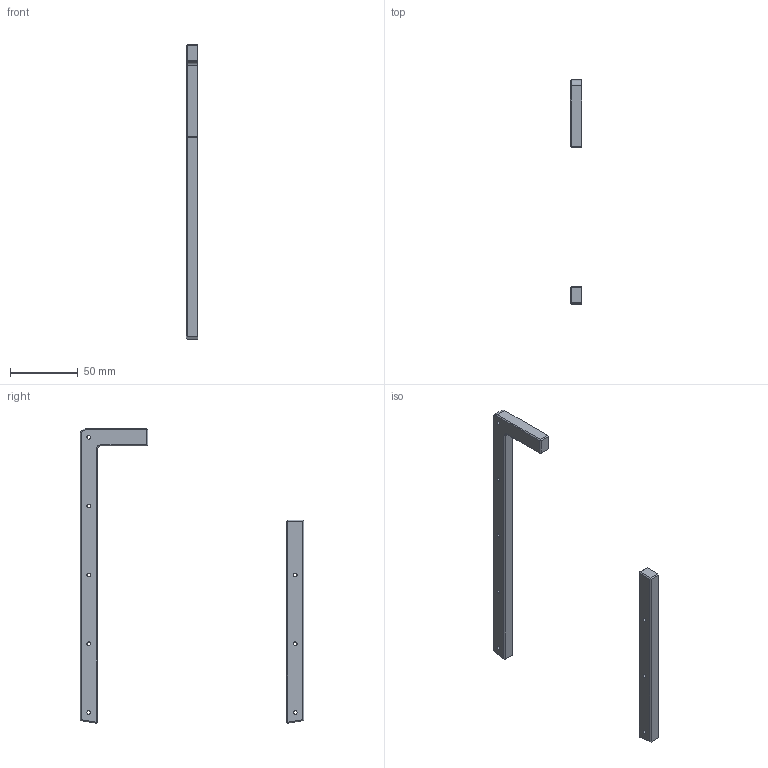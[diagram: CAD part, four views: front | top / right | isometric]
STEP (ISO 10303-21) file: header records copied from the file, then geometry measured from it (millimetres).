
FILE_DESCRIPTION (( 'STEP AP214' ), '1' );
FILE_NAME ('Antenna Frame Left.STEP', '2021-06-11T04:50:09', ( '' ), ( '' ), 'SwSTEP 2.0', 'SolidWorks 2016', '' );
FILE_SCHEMA (( 'AUTOMOTIVE_DESIGN' ));
Length unit declared in the file: inch
Products named in the file (1): Antenna Frame Left
Bounding box: 8.38 x 165.1 x 217.43 mm (x, y, z)
Volume: 42177.2 mm3; surface area: 17440.5 mm2
Topology: 2 solids, 2 shells, 52 faces, 132 edges, 84 vertices
Faces by surface type: plane 32, cylinder 18, cone 2
Entity records: 1641 total; most frequent: DIRECTION 276, CARTESIAN_POINT 269, ORIENTED_EDGE 264, EDGE_CURVE 132, VECTOR 94, LINE 94, AXIS2_PLACEMENT_3D 91, VERTEX_POINT 84
